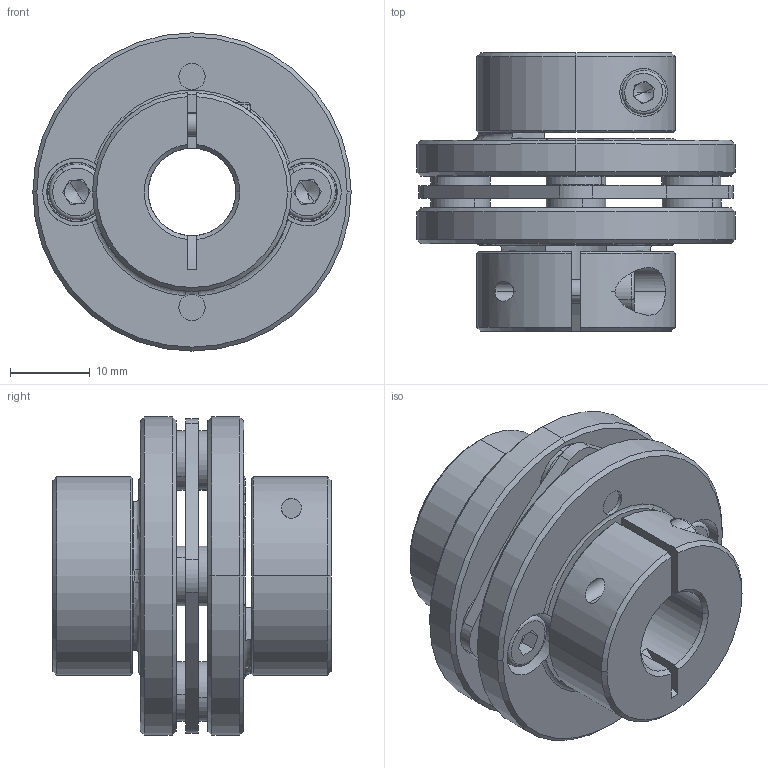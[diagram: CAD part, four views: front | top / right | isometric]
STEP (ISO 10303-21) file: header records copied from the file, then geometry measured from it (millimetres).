
FILE_DESCRIPTION (( 'STEP AP203' ), '1' );
FILE_NAME ('LE1-B-D40L35-11-11.STEP', '2021-11-01T02:11:03', ( '' ), ( '' ), 'SwSTEP 2.0', 'SolidWorks 2018', '' );
FILE_SCHEMA (( 'CONFIG_CONTROL_DESIGN' ));
Length unit declared in the file: millimetre
Products named in the file (1): LE1-B-D40L35-11-11
Bounding box: 40 x 35 x 40 mm (x, y, z)
Volume: 19144.9 mm3; surface area: 12653 mm2
Topology: 1 solids, 13 shells, 423 faces, 1021 edges, 630 vertices
Faces by surface type: cylinder 149, plane 140, cone 114, torus 18, bspline 2
Entity records: 12766 total; most frequent: CARTESIAN_POINT 2459, DIRECTION 2335, ORIENTED_EDGE 2018, EDGE_CURVE 1009, AXIS2_PLACEMENT_3D 952, VERTEX_POINT 630, CIRCLE 530, EDGE_LOOP 491
